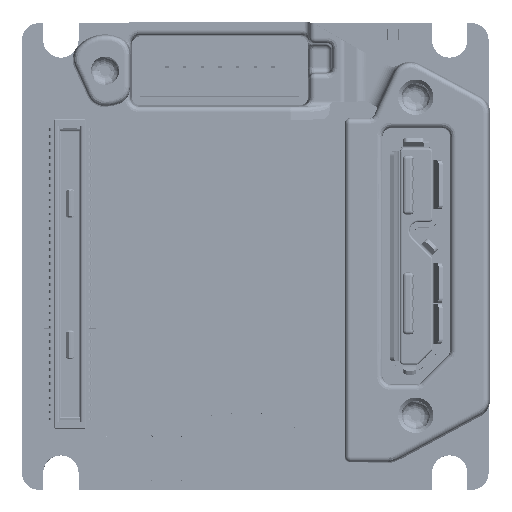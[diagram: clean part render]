
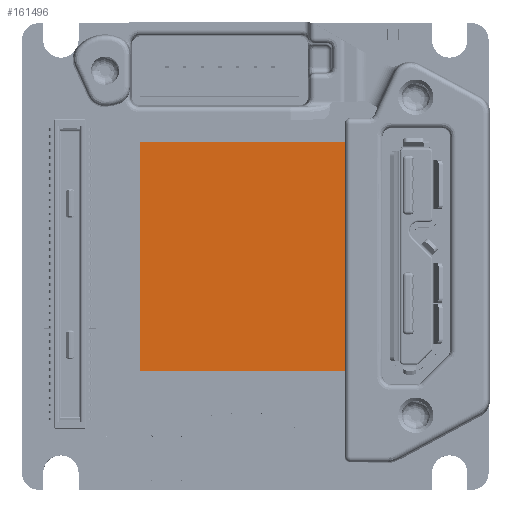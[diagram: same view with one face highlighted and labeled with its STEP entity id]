
A CAD part, top view. The second image highlights one B-rep face of the part: STEP entity #161496.
In plain terms, the highlighted planar face has unit normal (0, 0, 1).
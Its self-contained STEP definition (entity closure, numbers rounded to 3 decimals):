
#10877 = EDGE_CURVE ( 'NONE', #137333, #442458, #422912, .T. ) ;
#36636 = CARTESIAN_POINT ( 'NONE',  ( 6.5, -6.5, 6.162 ) ) ;
#54353 = VECTOR ( 'NONE', #373090, 1000. ) ;
#57550 = LINE ( 'NONE', #671669, #415668 ) ;
#74570 = VERTEX_POINT ( 'NONE', #86116 ) ;
#86116 = CARTESIAN_POINT ( 'NONE',  ( -6.5, 6.5, 6.162 ) ) ;
#95724 = LINE ( 'NONE', #603093, #386029 ) ;
#96148 = FACE_OUTER_BOUND ( 'NONE', #363728, .T. ) ;
#137333 = VERTEX_POINT ( 'NONE', #227101 ) ;
#161496 = ADVANCED_FACE ( 'NONE', ( #96148 ), #320513, .F. ) ;
#212175 = DIRECTION ( 'NONE',  ( 0., -1., 0. ) ) ;
#227101 = CARTESIAN_POINT ( 'NONE',  ( 6.5, -6.5, 6.162 ) ) ;
#235198 = CARTESIAN_POINT ( 'NONE',  ( -6.5, -6.5, 6.162 ) ) ;
#274289 = ORIENTED_EDGE ( 'NONE', *, *, #459001, .F. ) ;
#320513 = PLANE ( 'NONE',  #595779 ) ;
#321432 = LINE ( 'NONE', #376699, #54353 ) ;
#338354 = ORIENTED_EDGE ( 'NONE', *, *, #451341, .F. ) ;
#363728 = EDGE_LOOP ( 'NONE', ( #492176, #274289, #338354, #704237 ) ) ;
#373090 = DIRECTION ( 'NONE',  ( 1., 0., 0. ) ) ;
#376699 = CARTESIAN_POINT ( 'NONE',  ( -6.5, 6.5, 6.162 ) ) ;
#386029 = VECTOR ( 'NONE', #661852, 1000. ) ;
#415668 = VECTOR ( 'NONE', #212175, 1000. ) ;
#422912 = LINE ( 'NONE', #36636, #550787 ) ;
#425215 = VERTEX_POINT ( 'NONE', #638939 ) ;
#442458 = VERTEX_POINT ( 'NONE', #235198 ) ;
#451341 = EDGE_CURVE ( 'NONE', #74570, #425215, #321432, .T. ) ;
#459001 = EDGE_CURVE ( 'NONE', #425215, #137333, #57550, .T. ) ;
#492176 = ORIENTED_EDGE ( 'NONE', *, *, #10877, .F. ) ;
#543968 = DIRECTION ( 'NONE',  ( -1., 0., 0. ) ) ;
#550787 = VECTOR ( 'NONE', #543968, 1000. ) ;
#595779 = AXIS2_PLACEMENT_3D ( 'NONE', #669546, #621707, #625290 ) ;
#596428 = EDGE_CURVE ( 'NONE', #442458, #74570, #95724, .T. ) ;
#603093 = CARTESIAN_POINT ( 'NONE',  ( -6.5, -6.5, 6.162 ) ) ;
#621707 = DIRECTION ( 'NONE',  ( 0., 0., -1. ) ) ;
#625290 = DIRECTION ( 'NONE',  ( 0., -1., 0. ) ) ;
#638939 = CARTESIAN_POINT ( 'NONE',  ( 6.5, 6.5, 6.162 ) ) ;
#661852 = DIRECTION ( 'NONE',  ( 0., 1., 0. ) ) ;
#669546 = CARTESIAN_POINT ( 'NONE',  ( 0., 0., 6.162 ) ) ;
#671669 = CARTESIAN_POINT ( 'NONE',  ( 6.5, 6.5, 6.162 ) ) ;
#704237 = ORIENTED_EDGE ( 'NONE', *, *, #596428, .F. ) ;
